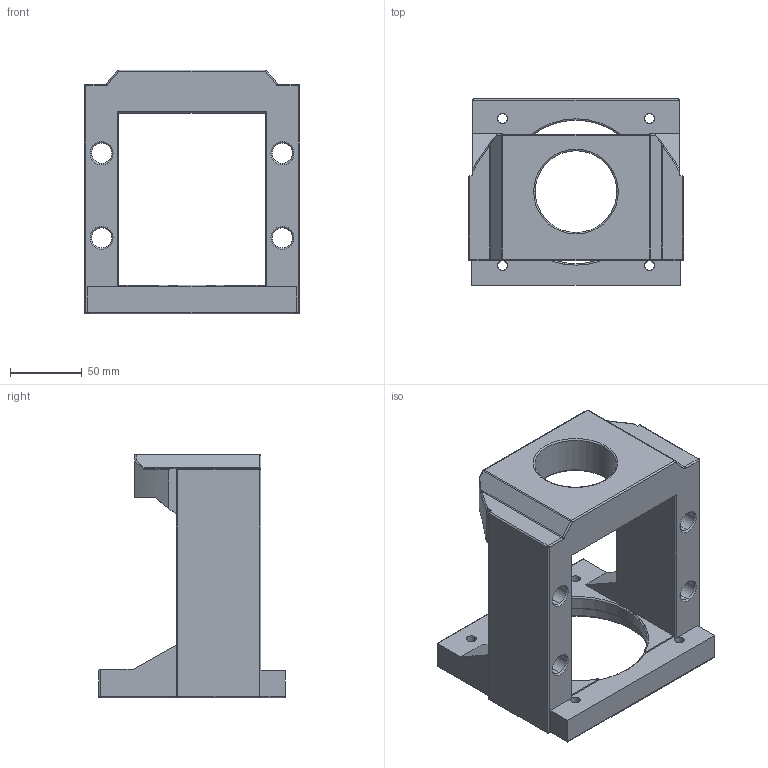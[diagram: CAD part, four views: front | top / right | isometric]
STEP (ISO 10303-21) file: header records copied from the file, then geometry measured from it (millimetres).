
FILE_DESCRIPTION (( 'STEP AP203' ), '1' );
FILE_NAME ('自化件傳動座內MBB20L-G本體.STEP', '2019-01-02T03:24:33', ( '' ), ( '' ), 'SwSTEP 2.0', 'SolidWorks 2018', '' );
FILE_SCHEMA (( 'CONFIG_CONTROL_DESIGN' ));
Length unit declared in the file: millimetre
Products named in the file (1): 自化件傳動座內MBB20L-G本體
Bounding box: 150 x 130 x 170 mm (x, y, z)
Volume: 781448.7 mm3; surface area: 122325.6 mm2
Topology: 1 solids, 1 shells, 187 faces, 461 edges, 260 vertices
Faces by surface type: cylinder 79, plane 44, cone 24, torus 24, sphere 12, bspline 4
Entity records: 5558 total; most frequent: CARTESIAN_POINT 1103, DIRECTION 977, ORIENTED_EDGE 882, EDGE_CURVE 441, AXIS2_PLACEMENT_3D 384, VERTEX_POINT 260, EDGE_LOOP 213, VECTOR 209
